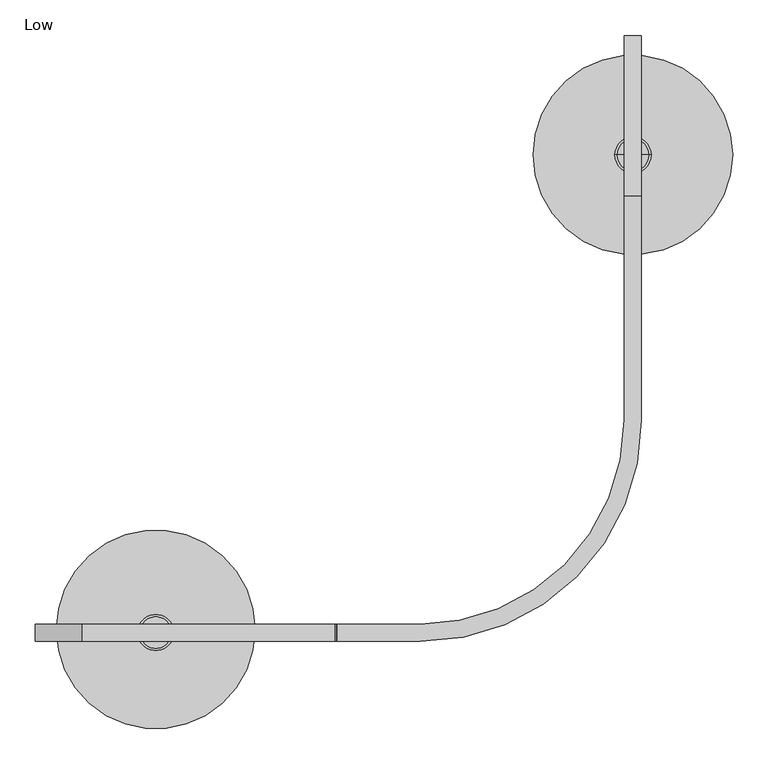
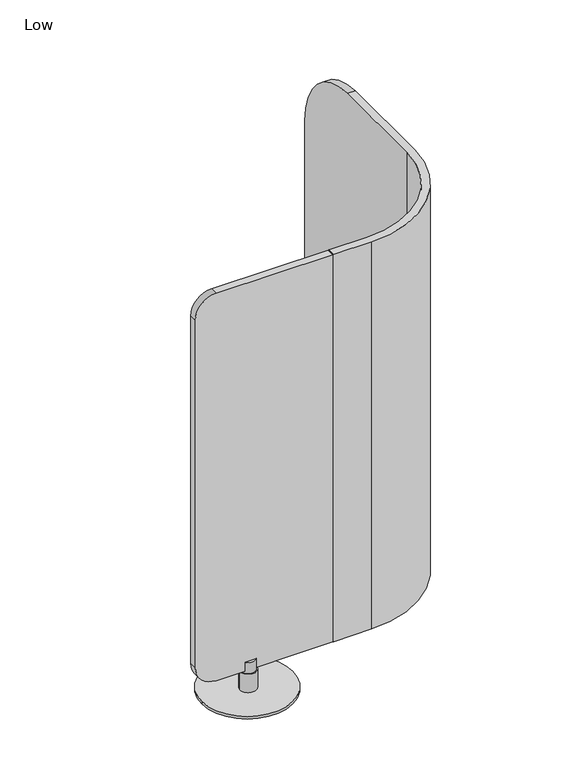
"""IFC4 building model written with IfcOpenShell, lengths in millimetres: furniture geometry, Coalesse_AM_SpaceDivision_Screen_Ensemble_Corner : Low."""

from ifc_helpers import new_model, si_unit, point, frame, frame_2d, origin, origin_with_axes, place, context, project, spatial, polyline, circle_curve, trimmed, segment, composite_curve, outline, extrude, source, transform, mapped, element, save
from ifc_brep_helpers import plane_surface, cylinder_surface, revolved_surface, advanced_brep


def low_d14df45f(model_context):
    return source(origin(), model_context, "Body", "SolidModel", [
        advanced_brep(
        [(853.9730377, 628.1115594, 1332.4926487), (853.9730377, 311.8991998, 1332.4926487), (853.9730377, 311.8991998, 74.5093328), (853.9730377, 789.1395851, 74.509804), (853.9730377, 853.9734079, 139.3436268), (853.9730377, 853.9734079, 1106.6308002), (829.995618, 789.1395851, 74.509804), (829.995618, 311.9750865, 74.5093328), (829.995618, 311.9750865, 1332.4926487), (829.995618, 628.1115594, 1332.4926487), (829.995618, 853.9734079, 1106.6308002), (829.995618, 853.9734079, 139.3436268), (542.0984688, 0.0, 74.509804), (425.2080637, 0.0, 74.509804), (425.2080637, 23.9774863, 74.509804), (542.087374, 23.9774863, 74.509804), (542.087374, 23.9774863, 1332.4926487), (425.2272842, 23.9774863, 1332.4926487), (425.2272842, 0.0, 1332.4926487), (542.0984688, 0.0, 1332.4926487), (423.9933105, 23.9774863, 75.7241996), (423.9933105, 23.9774863, 1331.258675), (423.9933105, 0.0, 1331.258675), (423.9933105, 0.0, 75.7241996)],
        [
            (0, 1),
            (1, 2),
            (2, 3),
            (3, 4, circle_curve(frame((853.9730377, 789.1395851, 139.3436268), z_axis=(1.0, 0.0, 0.0), x_axis=(0.0, -1.0, 0.0)), 64.8338228)),
            (4, 5),
            (5, 0, circle_curve(frame((853.9730377, 628.1115594, 1106.6308002), z_axis=(1.0, 0.0, 0.0), x_axis=(0.0, -1.0, 0.0)), 225.8618485)),
            (6, 7),
            (7, 8),
            (8, 9),
            (9, 10, circle_curve(frame((829.995618, 628.1115594, 1106.6308002), z_axis=(-1.0, 0.0, 0.0), x_axis=(0.0, -1.0, 0.0)), 225.8618485)),
            (10, 11),
            (11, 6, circle_curve(frame((829.995618, 789.1395851, 139.3436268), z_axis=(-1.0, 0.0, 0.0), x_axis=(0.0, -1.0, 0.0)), 64.8338228)),
            (5, 10),
            (9, 0),
            (4, 11),
            (3, 6),
            (2, 12, circle_curve(frame((542.0984688, 311.8991998, 74.509804), z_axis=(0.0, 0.0, -1.0), x_axis=(1.0, 0.0, 0.0)), 311.8991998)),
            (12, 13),
            (13, 14),
            (14, 15),
            (15, 7, circle_curve(frame((542.087374, 311.8857441, 74.509804), z_axis=(0.0, 0.0, 1.0), x_axis=(1.0, 0.0, 0.0)), 287.9082578)),
            (8, 16, circle_curve(frame((542.087374, 311.8857441, 1332.4926487), z_axis=(0.0, 0.0, -1.0), x_axis=(1.0, 0.0, 0.0)), 287.9082578)),
            (16, 17),
            (17, 18),
            (18, 19),
            (19, 1, circle_curve(frame((542.0984688, 311.8991998, 1332.4926487), z_axis=(0.0, 0.0, 1.0), x_axis=(1.0, 0.0, 0.0)), 311.8991998)),
            (16, 15),
            (14, 20, circle_curve(frame((425.2080637, 23.9774863, 75.7241996), z_axis=(0.0, 1.0, 0.0), x_axis=(1.0, 0.0, 0.0)), 1.2147532)),
            (20, 21),
            (21, 17, circle_curve(frame((425.2272842, 23.9774863, 1331.258675), z_axis=(0.0, 1.0, 0.0), x_axis=(1.0, 0.0, 0.0)), 1.2339737)),
            (19, 12),
            (18, 22, circle_curve(frame((425.2272842, 0.0, 1331.258675), z_axis=(0.0, -1.0, 0.0), x_axis=(1.0, 0.0, 0.0)), 1.2339737)),
            (22, 23),
            (23, 13, circle_curve(frame((425.2080637, 0.0, 75.7241996), z_axis=(0.0, -1.0, 0.0), x_axis=(1.0, 0.0, 0.0)), 1.2147532)),
            (21, 22),
            (20, 23),
        ],
        [
            plane_surface(frame((853.9730377, 402.2497109, 1106.6308002), z_axis=(1.0, 0.0, 0.0), x_axis=(0.0, 0.0, 1.0))),
            plane_surface(frame((829.995618, 402.2497109, 1106.6308002), z_axis=(-1.0, 0.0, 0.0), x_axis=(0.0, 0.0, -1.0))),
            cylinder_surface(frame((829.995618, 628.1115594, 1106.6308002), z_axis=(1.0, 0.0, 0.0), x_axis=(0.0, -1.0, 0.0)), 225.8618485),
            plane_surface(frame((853.9730377, 853.9734079, 1106.6308002), z_axis=(0.0, 1.0, 0.0), x_axis=(-1.0, 0.0, 0.0))),
            cylinder_surface(frame((829.995618, 789.1395851, 139.3436268), z_axis=(1.0, 0.0, 0.0), x_axis=(0.0, -1.0, 0.0)), 64.8338228),
            plane_surface(frame((853.9730377, 789.1395851, 74.509804), z_axis=(0.0, 0.0, -1.0), x_axis=(-1.0, 0.0, 0.0))),
            plane_surface(frame((853.9730377, 315.8189106, 1332.4926487), z_axis=(0.0, 0.0, 1.0), x_axis=(-1.0, 0.0, 0.0))),
            plane_surface(frame((537.7681369, 23.9774863, 1332.4926487), z_axis=(0.0, 1.0, 0.0), x_axis=(0.0, 0.0, -1.0))),
            revolved_surface(polyline([(829.9956318, 311.8857441, 74.5093328), (829.9956318, 311.8857441, 1332.4926487)]), (542.087374, 311.8857441, 74.5093328), (0.0, 0.0, -1.0)),
            cylinder_surface(frame((542.0984688, 311.8991998, 74.5093328), z_axis=(0.0, 0.0, 1.0), x_axis=(1.0, 0.0, 0.0)), 311.8991998),
            plane_surface(frame((542.0984688, 0.0, 1332.4926487), z_axis=(0.0, -1.0, 0.0), x_axis=(0.0, 0.0, -1.0))),
            cylinder_surface(frame((425.2272842, 0.0, 1331.258675), z_axis=(0.0, 1.0, 0.0), x_axis=(1.0, 0.0, 0.0)), 1.2339737),
            plane_surface(frame((423.9933105, 23.9774863, 1331.258675), z_axis=(-1.0, 0.0, 0.0), x_axis=(0.0, -1.0, 0.0))),
            cylinder_surface(frame((425.2080637, 0.0, 75.7241996), z_axis=(0.0, 1.0, 0.0), x_axis=(1.0, 0.0, 0.0)), 1.2147532),
        ],
        [
            (0, [[1, 2, 3, 4, 5, 6]]),
            (1, [[7, 8, 9, 10, 11, 12]]),
            (2, [[13, -10, 14, -6]]),
            (3, [[15, -11, -13, -5]]),
            (4, [[16, -12, -15, -4]]),
            (5, [[-3, 17, 18, 19, 20, 21, -7, -16]]),
            (6, [[-9, 22, 23, 24, 25, 26, -1, -14]]),
            (7, [[27, -20, 28, 29, 30, -23]]),
            (8, [[-8, -21, -27, -22]]),
            (9, [[31, -17, -2, -26]]),
            (10, [[32, 33, 34, -18, -31, -25]]),
            (11, [[35, -32, -24, -30]]),
            (12, [[36, -33, -35, -29]]),
            (13, [[-19, -34, -36, -28]]),
        ],
    ),
        extrude(outline(composite_curve([segment(trimmed(circle_curve(frame_2d((1267.5289851, 64.9636636)), 64.9636636), [point((1332.4926487, 64.9636636))], [point((1267.5289851, 0.0))], False, "CARTESIAN"), True, "CONTINUOUS"), segment(polyline([(1267.5289851, 0.0), (138.0093328, 0.0)]), True, "CONTINUOUS"), segment(trimmed(circle_curve(frame_2d((138.0093328, 63.5)), 63.5), [point((138.0093328, 0.0))], [point((74.5093328, 63.5))], False, "CARTESIAN"), True, "CONTINUOUS"), segment(polyline([(74.5093328, 63.5), (74.5093328, 422.7146225)]), True, "CONTINUOUS"), segment(trimmed(circle_curve(frame_2d((75.7880209, 422.7146225)), 1.278688), [point((74.5093328, 422.7146225))], [point((75.7880209, 423.9933105))], False, "CARTESIAN"), True, "CONTINUOUS"), segment(polyline([(75.7880209, 423.9933105), (1331.3107464, 423.9933105)]), True, "CONTINUOUS"), segment(trimmed(circle_curve(frame_2d((1331.3107464, 422.8114082)), 1.1819023), [point((1331.3107464, 423.9933105))], [point((1332.4926487, 422.8114082))], False, "CARTESIAN"), True, "CONTINUOUS"), segment(polyline([(1332.4926487, 422.8114082), (1332.4926487, 64.9636636)]), True, "CONTINUOUS")], self_intersect=False)), frame((0.0, 0.0, 0.0), z_axis=(0.0, 1.0, 0.0), x_axis=(0.0, 0.0, 1.0)), (0.0, 0.0, 1.0), 23.9774863),
        advanced_brep(
        [(816.700333, 685.8161337, 7.8732992), (842.100333, 685.8161337, 7.8732992), (867.500333, 685.8161337, 7.8732992), (816.700333, 685.8161337, 67.1258584), (867.500333, 685.8161337, 67.1258584), (819.9544051, 685.8161337, 67.1258584), (864.2462609, 685.8161337, 67.1258584), (819.9544051, 685.8161337, 102.873817), (864.2462609, 685.8161337, 102.873817), (842.100333, 685.8161337, 102.873817)],
        [
            (0, 1),
            (1, 2),
            (2, 0, circle_curve(frame((842.100333, 685.8161337, 7.8732992), z_axis=(0.0, 0.0, -1.0), x_axis=(1.0, 0.0, 0.0)), 25.4)),
            (0, 2, circle_curve(frame((842.100333, 685.8161337, 7.8732992), z_axis=(0.0, 0.0, -1.0), x_axis=(1.0, 0.0, 0.0)), 25.4)),
            (3, 0),
            (2, 4),
            (4, 3, circle_curve(frame((842.100333, 685.8161337, 67.1258584), z_axis=(0.0, 0.0, -1.0), x_axis=(1.0, 0.0, 0.0)), 25.4)),
            (3, 4, circle_curve(frame((842.100333, 685.8161337, 67.1258584), z_axis=(0.0, 0.0, -1.0), x_axis=(1.0, 0.0, 0.0)), 25.4)),
            (5, 3),
            (4, 6),
            (6, 5, circle_curve(frame((842.100333, 685.8161337, 67.1258584), z_axis=(0.0, 0.0, -1.0), x_axis=(1.0, 0.0, 0.0)), 22.1459279)),
            (5, 6, circle_curve(frame((842.100333, 685.8161337, 67.1258584), z_axis=(0.0, 0.0, -1.0), x_axis=(1.0, 0.0, 0.0)), 22.1459279)),
            (7, 5),
            (6, 8),
            (8, 7, circle_curve(frame((842.100333, 685.8161337, 102.873817), z_axis=(0.0, 0.0, -1.0), x_axis=(1.0, 0.0, 0.0)), 22.1459279)),
            (7, 8, circle_curve(frame((842.100333, 685.8161337, 102.873817), z_axis=(0.0, 0.0, -1.0), x_axis=(1.0, 0.0, 0.0)), 22.1459279)),
            (9, 7),
            (8, 9),
        ],
        [
            plane_surface(frame((842.100333, 685.8161337, 7.8732992), z_axis=(0.0, 0.0, -1.0), x_axis=(1.0, 0.0, 0.0))),
            cylinder_surface(frame((842.100333, 685.8161337, 102.873817), z_axis=(0.0, 0.0, 1.0), x_axis=(1.0, 0.0, 0.0)), 25.4),
            plane_surface(frame((842.100333, 685.8161337, 67.1258584), z_axis=(0.0, 0.0, 1.0), x_axis=(1.0, 0.0, 0.0))),
            cylinder_surface(frame((842.100333, 685.8161337, 102.873817), z_axis=(0.0, 0.0, 1.0), x_axis=(1.0, 0.0, 0.0)), 22.1459279),
            plane_surface(frame((842.100333, 685.8161337, 102.873817), z_axis=(0.0, 0.0, 1.0), x_axis=(1.0, 0.0, 0.0))),
        ],
        [
            (0, [[1, 2, 3]]),
            (0, [[-2, -1, 4]]),
            (1, [[5, -3, 6, 7]]),
            (1, [[-6, -4, -5, 8]]),
            (2, [[9, -7, 10, 11]]),
            (2, [[-10, -8, -9, 12]]),
            (3, [[13, -11, 14, 15]]),
            (3, [[-14, -12, -13, 16]]),
            (4, [[17, -15, 18]]),
            (4, [[-18, -16, -17]]),
        ],
    ),
        advanced_brep(
        [(144.1303497, 12.7, 7.8732992), (169.5303497, 12.7, 7.8732992), (194.9303497, 12.7, 7.8732992), (144.1303497, 12.7, 67.1258584), (194.9303497, 12.7, 67.1258584), (147.3844218, 12.7, 67.1258584), (191.6762776, 12.7, 67.1258584), (147.3844218, 12.7, 102.873817), (191.6762776, 12.7, 102.873817), (169.5303497, 12.7, 102.873817)],
        [
            (0, 1),
            (1, 2),
            (2, 0, circle_curve(frame((169.5303497, 12.7, 7.8732992), z_axis=(0.0, 0.0, -1.0), x_axis=(1.0, 0.0, 0.0)), 25.4)),
            (0, 2, circle_curve(frame((169.5303497, 12.7, 7.8732992), z_axis=(0.0, 0.0, -1.0), x_axis=(1.0, 0.0, 0.0)), 25.4)),
            (3, 0),
            (2, 4),
            (4, 3, circle_curve(frame((169.5303497, 12.7, 67.1258584), z_axis=(0.0, 0.0, -1.0), x_axis=(1.0, 0.0, 0.0)), 25.4)),
            (3, 4, circle_curve(frame((169.5303497, 12.7, 67.1258584), z_axis=(0.0, 0.0, -1.0), x_axis=(1.0, 0.0, 0.0)), 25.4)),
            (5, 3),
            (4, 6),
            (6, 5, circle_curve(frame((169.5303497, 12.7, 67.1258584), z_axis=(0.0, 0.0, -1.0), x_axis=(1.0, 0.0, 0.0)), 22.1459279)),
            (5, 6, circle_curve(frame((169.5303497, 12.7, 67.1258584), z_axis=(0.0, 0.0, -1.0), x_axis=(1.0, 0.0, 0.0)), 22.1459279)),
            (7, 5),
            (6, 8),
            (8, 7, circle_curve(frame((169.5303497, 12.7, 102.873817), z_axis=(0.0, 0.0, -1.0), x_axis=(1.0, 0.0, 0.0)), 22.1459279)),
            (7, 8, circle_curve(frame((169.5303497, 12.7, 102.873817), z_axis=(0.0, 0.0, -1.0), x_axis=(1.0, 0.0, 0.0)), 22.1459279)),
            (9, 7),
            (8, 9),
        ],
        [
            plane_surface(frame((169.5303497, 12.7, 7.8732992), z_axis=(0.0, 0.0, -1.0), x_axis=(1.0, 0.0, 0.0))),
            cylinder_surface(frame((169.5303497, 12.7, 102.873817), z_axis=(0.0, 0.0, 1.0), x_axis=(1.0, 0.0, 0.0)), 25.4),
            plane_surface(frame((169.5303497, 12.7, 67.1258584), z_axis=(0.0, 0.0, 1.0), x_axis=(1.0, 0.0, 0.0))),
            cylinder_surface(frame((169.5303497, 12.7, 102.873817), z_axis=(0.0, 0.0, 1.0), x_axis=(1.0, 0.0, 0.0)), 22.1459279),
            plane_surface(frame((169.5303497, 12.7, 102.873817), z_axis=(0.0, 0.0, 1.0), x_axis=(1.0, 0.0, 0.0))),
        ],
        [
            (0, [[1, 2, 3]]),
            (0, [[-2, -1, 4]]),
            (1, [[5, -3, 6, 7]]),
            (1, [[-6, -4, -5, 8]]),
            (2, [[9, -7, 10, 11]]),
            (2, [[-10, -8, -9, 12]]),
            (3, [[13, -11, 14, 15]]),
            (3, [[-14, -12, -13, 16]]),
            (4, [[17, -15, 18]]),
            (4, [[-18, -16, -17]]),
        ],
    ),
        extrude(outline(composite_curve([segment(trimmed(circle_curve(frame_2d((169.5303497, 17.0411177)), 140.0479005), [point((29.4824492, 17.0411177))], [point((309.5782503, 17.0411177))], False, "CARTESIAN"), True, "CONTINUOUS"), segment(trimmed(circle_curve(frame_2d((169.5303497, 17.0411177)), 140.0479005), [point((309.5782503, 17.0411177))], [point((29.4824492, 17.0411177))], False, "CARTESIAN"), True, "CONTINUOUS")], self_intersect=False)), origin_with_axes(), (0.0, 0.0, 1.0), 7.8732992),
        extrude(outline(composite_curve([segment(trimmed(circle_curve(frame_2d((841.9822183, 686.081839)), 140.3919114), [point((701.5903068, 686.081839))], [point((982.3741297, 686.081839))], False, "CARTESIAN"), True, "CONTINUOUS"), segment(trimmed(circle_curve(frame_2d((841.9822183, 686.081839)), 140.3919114), [point((982.3741297, 686.081839))], [point((701.5903068, 686.081839))], False, "CARTESIAN"), True, "CONTINUOUS")], self_intersect=False)), origin_with_axes(), (0.0, 0.0, 1.0), 7.8732992),
    ])


if __name__ == "__main__":
    model = new_model("IFC4")
    model_context = context("Model", 3, world=origin())
    ifc_project = project(units=[si_unit("LENGTHUNIT", "METRE", prefix="MILLI")], contexts=[model_context])
    site = spatial("IfcSite", under=ifc_project)
    building = spatial("IfcBuilding", under=site)
    placement = place(None, origin())
    low_shape = low_d14df45f(model_context)
    element("IfcFurniture", 1, ObjectType="Coalesse_AM_SpaceDivision_Screen_Ensemble_Corner : Low", at=placement, inside=building, context=model_context, shape_type="MappedRepresentation", body=[
        mapped(low_shape, transform((0.0, 0.0, 0.0), x_axis=(1.0, 0.0, 0.0), y_axis=(0.0, 1.0, 0.0), z_axis=(0.0, 0.0, 1.0))),
    ])
    save(model, "model.ifc")
